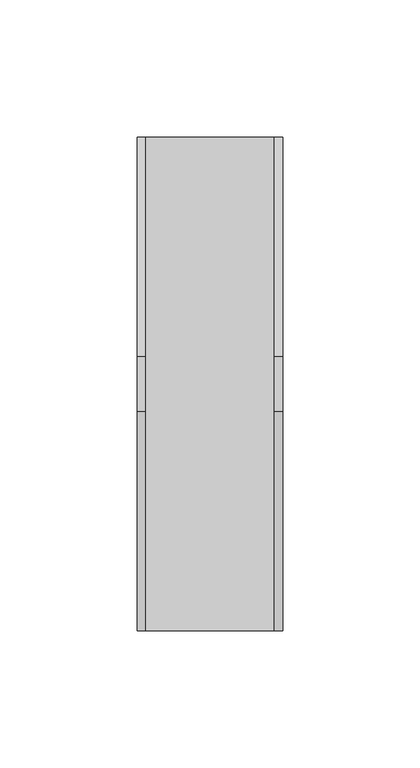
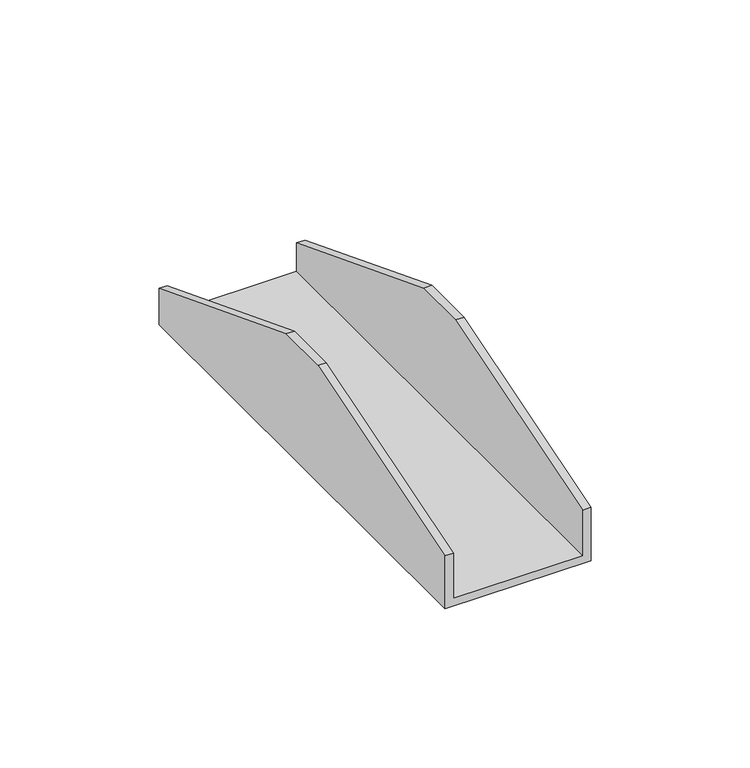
"""IFC4 building model written with IfcOpenShell, lengths in millimetres: proxy geometry, KA41-1_Articulated gusset-Basorfix : Basorfix KA41-1 GC."""

from ifc_helpers import new_model, si_unit, origin, place, context, project, spatial, faceted_brep, source, transform, mapped, element, save


def generic_models_d2a45bf1(model_context):
    return source(origin(), model_context, "Body", "Brep", [
        faceted_brep([(23.5037128, -90.0, 3.0), (-23.5037128, -90.0, 3.0), (-23.5037128, -90.0, 20.4174244), (-26.5037128, -90.0, 20.4174244), (-26.5037128, -90.0, 0.0), (26.5037128, -90.0, 0.0), (26.5037128, -90.0, 20.4174244), (23.5037128, -90.0, 20.4174244), (26.5037128, 90.0, 0.0), (-26.5037128, 90.0, 0.0), (-26.5037128, 90.0, 13.9174244), (-23.5037128, 90.0, 13.9174244), (-23.5037128, 90.0, 3.0), (23.5037128, 90.0, 3.0), (23.5037128, 90.0, 13.9174244), (26.5037128, 90.0, 13.9174244), (23.5037128, -10.0, 45.0), (23.5037128, 10.0, 45.0), (-23.5037128, 10.0, 45.0), (-23.5037128, -10.0, 45.0), (-26.5037128, 10.0, 45.0), (-26.5037128, -10.0, 45.0), (26.5037128, 10.0, 45.0), (26.5037128, -10.0, 45.0)], [[[0, 1, 2, 3, 4, 5, 6, 7]], [[8, 9, 10, 11, 12, 13, 14, 15]], [[13, 0, 7, 16, 17, 14]], [[1, 0, 13, 12]], [[1, 12, 11, 18, 19, 2]], [[19, 18, 20, 21]], [[9, 4, 3, 21, 20, 10]], [[5, 4, 9, 8]], [[5, 8, 15, 22, 23, 6]], [[17, 16, 23, 22]], [[3, 2, 19, 21]], [[7, 6, 23, 16]], [[11, 10, 20, 18]], [[15, 14, 17, 22]]]),
    ])


if __name__ == "__main__":
    model = new_model("IFC4")
    model_context = context("Model", 3, world=origin())
    ifc_project = project(units=[si_unit("LENGTHUNIT", "METRE", prefix="MILLI")], contexts=[model_context])
    site = spatial("IfcSite", under=ifc_project)
    building = spatial("IfcBuilding", under=site)
    placement = place(None, origin())
    generic_models_shape = generic_models_d2a45bf1(model_context)
    element("IfcBuildingElementProxy", 1, Name="KA41-1_Articulated gusset-Basorfix : Basorfix KA41-1 GC", ObjectType="KA41-1_Articulated gusset-Basorfix : Basorfix KA41-1 GC", at=placement, inside=building, context=model_context, shape_type="MappedRepresentation", body=[
        mapped(generic_models_shape, transform((0.0, 0.0, 0.0), x_axis=(1.0, 0.0, 0.0), y_axis=(0.0, 1.0, 0.0), z_axis=(0.0, 0.0, 1.0))),
    ])
    save(model, "model.ifc")
